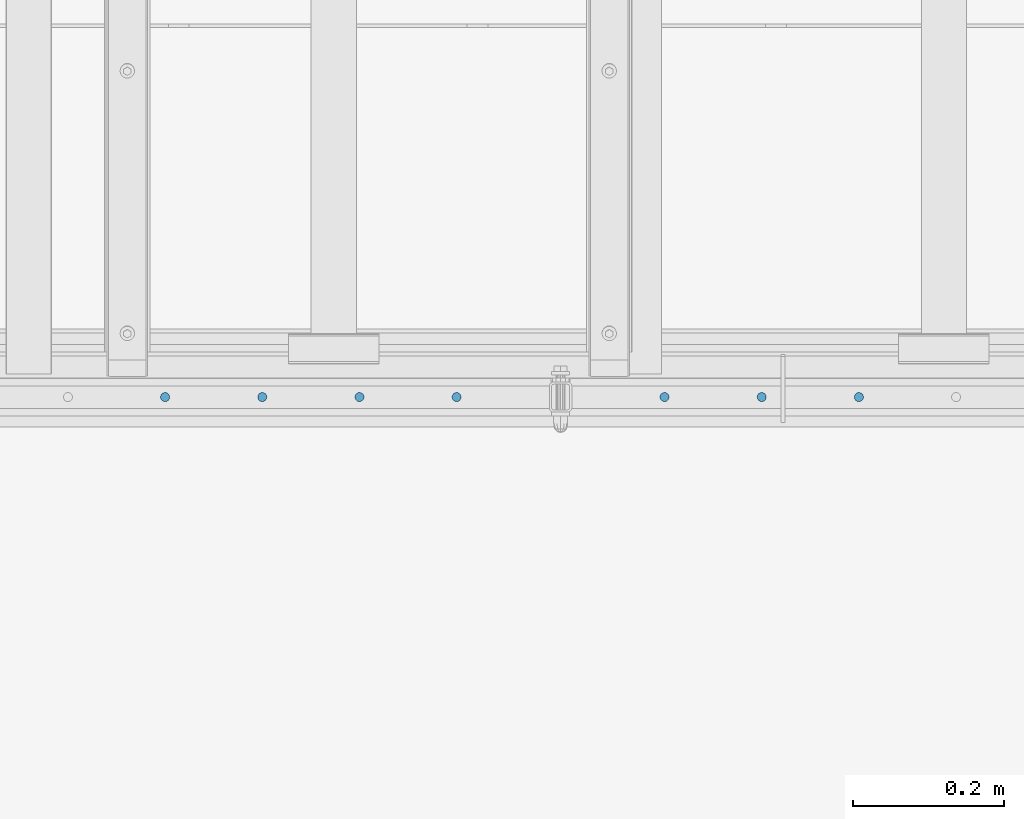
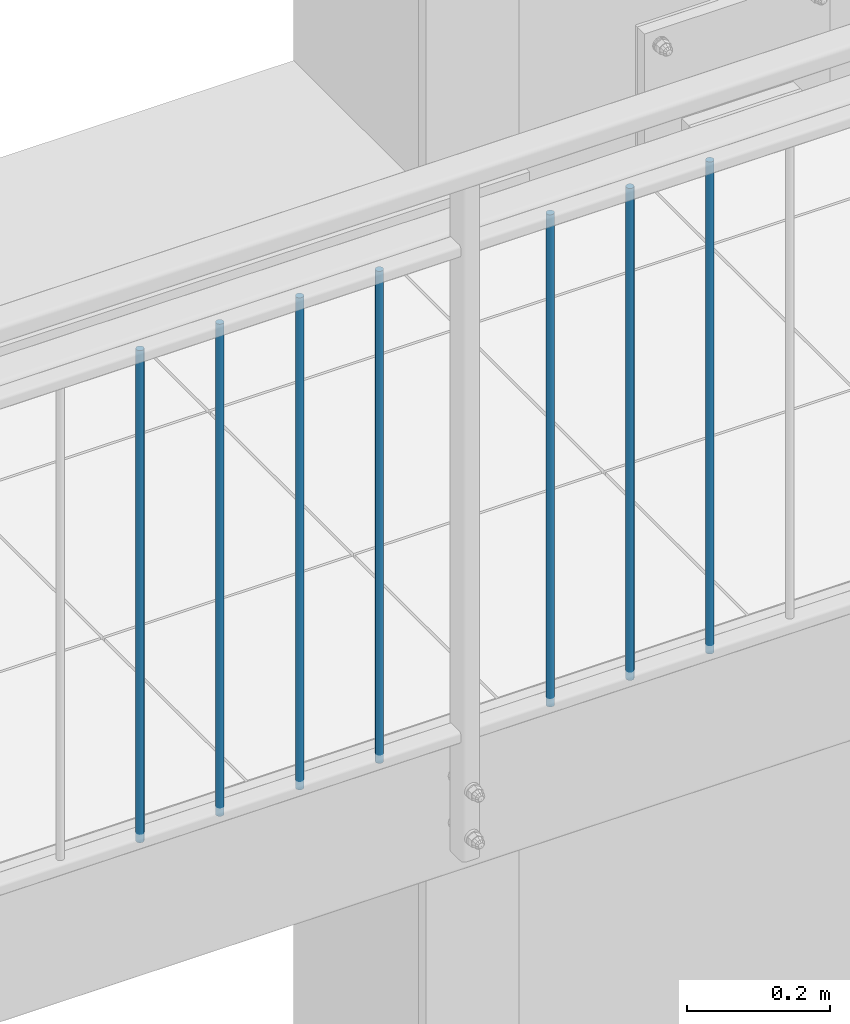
# One storey, part 23 of 162: 7 columns.
"""IFC2X3 building model written with IfcOpenShell, lengths in millimetres."""

from ifc_helpers import new_model, entity, si_unit, converted_unit, frame, origin, origin_with_axes, origin_2d, place, context, project, spatial, circle, extrude, material, element, save


model = new_model("IFC2X3")

# Units and contexts
model_context = context("Model", 3, precision=1e-09, world=origin_with_axes())
ifc_project = project(units=[si_unit("LENGTHUNIT", "METRE", prefix="MILLI"), si_unit("AREAUNIT", "SQUARE_METRE"), si_unit("VOLUMEUNIT", "CUBIC_METRE"), converted_unit("PLANEANGLEUNIT", "DEGREE", entity("IfcPlaneAngleMeasure", 0.01745329), si_unit("PLANEANGLEUNIT", "RADIAN"), dimensions=[0, 0, 0, 0, 0, 0, 0])], contexts=[model_context])

# Site, building, storey
site_placement = place(None, origin_with_axes())
site = spatial("IfcSite", under=ifc_project, at=site_placement, Name="Hermannstra?e 1a, 60318 Frankfurt", CompositionType="ELEMENT")
building_placement = place(site_placement, origin_with_axes())
building = spatial("IfcBuilding", under=site, at=building_placement, Name="Struktur 1", CompositionType="ELEMENT")
storey_placement = place(building_placement, origin_with_axes())
storey = spatial("IfcBuildingStorey", under=building, at=storey_placement, Name="Default Storey", CompositionType="ELEMENT", Elevation=0.0)

# Columns
ifc_material = material(Name="S235JR")
for number, where, z_axis, x_axis in (
    (1, (3918.880793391, 1515.609373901, 7805.0), (0.0, 0.0, -1.0), (1.0, 0.0, 0.0)),
    (2, (4047.737936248, 1515.609373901, 7805.0), (0.0, 0.0, -1.0), (1.0, 0.0, 0.0)),
    (3, (4176.595079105, 1515.609373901, 7805.0), (0.0, 0.0, -1.0), (1.0, 0.0, 0.0)),
    (4, (4305.452221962, 1515.609373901, 7805.0), (0.0, 0.0, -1.0), (1.0, 0.0, 0.0)),
    (5, (4581.166507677, 1515.609373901, 7805.0), (0.0, 0.0, -1.0), (1.0, 0.0, 0.0)),
    (6, (4710.023650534, 1515.609373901, 7805.0), (0.0, 0.0, -1.0), (1.0, 0.0, 0.0)),
    (7, (4838.880793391, 1515.609373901, 7805.0), (0.0, 0.0, -1.0), (1.0, 0.0, 0.0)),
):
    element("IfcColumn", number, at=place(None, frame(where, z_axis=z_axis, x_axis=x_axis)), inside=storey, material=ifc_material, Name="-", ObjectType="-", context=model_context, shape_type="SweptSolid", body=[
        extrude(circle(Radius=6.0, at=origin_2d()), origin(), (0.0, 0.0, -1.0), 840.0),
    ])

save(model, "model.ifc")
